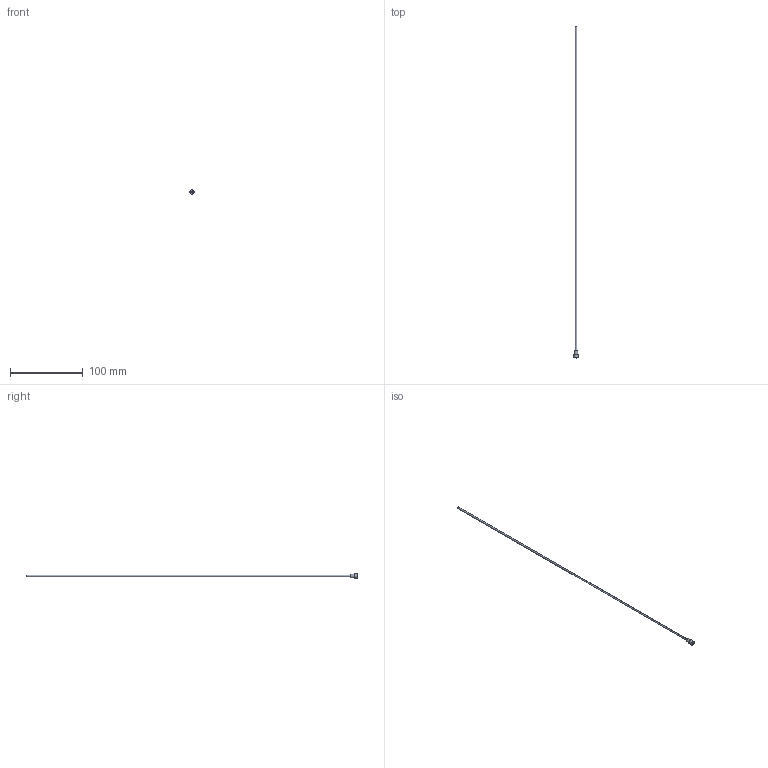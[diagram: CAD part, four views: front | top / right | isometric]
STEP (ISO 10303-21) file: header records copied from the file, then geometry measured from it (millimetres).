
FILE_DESCRIPTION(/* description */ (''),/* implementation_level */ '2;1');
FILE_NAME(/* name */ 'C:/Users/drich/Desktop/JR090T-18 v1.step',/* time_stamp */ '2019-12-30T13:00:55-06:00',/* author */ (''),/* organization */ (''),/* preprocessor_version */ 'ST-DEVELOPER v18',/* originating_system */ 'Autodesk Translation Framework v8.12.0.6',/* authorisation */ '');
FILE_SCHEMA (('AUTOMOTIVE_DESIGN { 1 0 10303 214 3 1 1 }'));
Length unit declared in the file: inch
Products named in the file (1): JR090T-18
Bounding box: 6.22 x 457.2 x 6.22 mm (x, y, z)
Volume: 716.1 mm3; surface area: 6220.9 mm2
Topology: 1 solids, 1 shells, 19 faces, 47 edges, 33 vertices
Faces by surface type: plane 11, cylinder 4, torus 3, cone 1
Full cylindrical faces by diameter (mm): 1.93 x1, 2.286 x1, 4.727 x1, 6.223 x1
Entity records: 624 total; most frequent: DIRECTION 111, CARTESIAN_POINT 100, ORIENTED_EDGE 94, EDGE_CURVE 47, AXIS2_PLACEMENT_3D 44, VERTEX_POINT 33, EDGE_LOOP 24, CIRCLE 24
